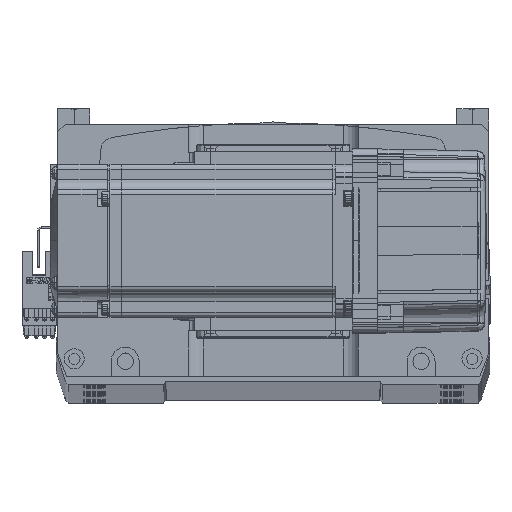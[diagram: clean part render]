
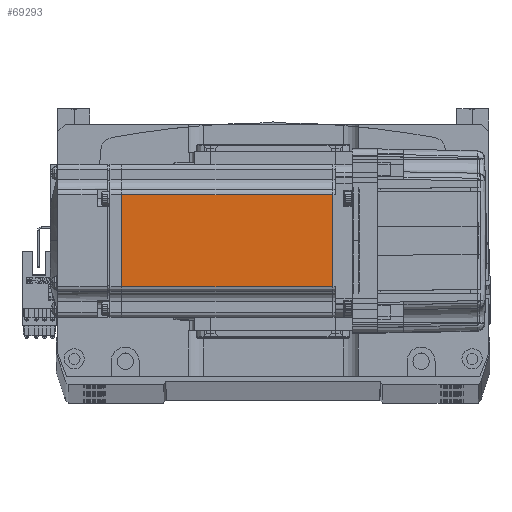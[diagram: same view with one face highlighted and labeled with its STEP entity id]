
A CAD part, top view. The second image highlights one B-rep face of the part: STEP entity #69293.
In plain terms, the highlighted planar face has unit normal (0, 0, 1).
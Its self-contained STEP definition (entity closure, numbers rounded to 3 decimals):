
#676 = EDGE_LOOP ( 'NONE', ( #1413, #59183, #61078, #51717 ) ) ;
#1413 = ORIENTED_EDGE ( 'NONE', *, *, #38547, .F. ) ;
#1962 = LINE ( 'NONE', #10062, #41190 ) ;
#2407 = AXIS2_PLACEMENT_3D ( 'NONE', #68688, #10962, #10451 ) ;
#3190 = LINE ( 'NONE', #49208, #38744 ) ;
#3635 = LINE ( 'NONE', #60044, #61178 ) ;
#9188 = DIRECTION ( 'NONE',  ( -1., 0., 0. ) ) ;
#10062 = CARTESIAN_POINT ( 'NONE',  ( -6.5, -18., 30. ) ) ;
#10451 = DIRECTION ( 'NONE',  ( 1., 0., 0. ) ) ;
#10962 = DIRECTION ( 'NONE',  ( 0., 0., 1. ) ) ;
#12805 = VECTOR ( 'NONE', #17589, 1000. ) ;
#17589 = DIRECTION ( 'NONE',  ( 0., -1., 0. ) ) ;
#20703 = CARTESIAN_POINT ( 'NONE',  ( -90.45, 18., 30. ) ) ;
#22323 = DIRECTION ( 'NONE',  ( -1., 0., 0. ) ) ;
#23260 = EDGE_CURVE ( 'NONE', #72827, #58921, #3635, .T. ) ;
#34640 = CARTESIAN_POINT ( 'NONE',  ( -7.75, 0., 30. ) ) ;
#37182 = DIRECTION ( 'NONE',  ( 0., -1., 0. ) ) ;
#38428 = EDGE_CURVE ( 'NONE', #51226, #64643, #1962, .T. ) ;
#38547 = EDGE_CURVE ( 'NONE', #72827, #51226, #43898, .T. ) ;
#38724 = CARTESIAN_POINT ( 'NONE',  ( -90.45, -18., 30. ) ) ;
#38744 = VECTOR ( 'NONE', #37182, 1000. ) ;
#41190 = VECTOR ( 'NONE', #22323, 1000. ) ;
#42646 = FACE_OUTER_BOUND ( 'NONE', #676, .T. ) ;
#43898 = LINE ( 'NONE', #34640, #12805 ) ;
#49208 = CARTESIAN_POINT ( 'NONE',  ( -90.45, 0., 30. ) ) ;
#51226 = VERTEX_POINT ( 'NONE', #55875 ) ;
#51717 = ORIENTED_EDGE ( 'NONE', *, *, #38428, .F. ) ;
#55875 = CARTESIAN_POINT ( 'NONE',  ( -7.75, -18., 30. ) ) ;
#58921 = VERTEX_POINT ( 'NONE', #20703 ) ;
#59183 = ORIENTED_EDGE ( 'NONE', *, *, #23260, .T. ) ;
#60044 = CARTESIAN_POINT ( 'NONE',  ( -6.5, 18., 30. ) ) ;
#61078 = ORIENTED_EDGE ( 'NONE', *, *, #70661, .T. ) ;
#61178 = VECTOR ( 'NONE', #9188, 1000. ) ;
#63578 = PLANE ( 'NONE',  #2407 ) ;
#64643 = VERTEX_POINT ( 'NONE', #38724 ) ;
#68688 = CARTESIAN_POINT ( 'NONE',  ( -6.5, -25., 30. ) ) ;
#69293 = ADVANCED_FACE ( 'NONE', ( #42646 ), #63578, .T. ) ;
#70661 = EDGE_CURVE ( 'NONE', #58921, #64643, #3190, .T. ) ;
#72827 = VERTEX_POINT ( 'NONE', #75271 ) ;
#75271 = CARTESIAN_POINT ( 'NONE',  ( -7.75, 18., 30. ) ) ;
